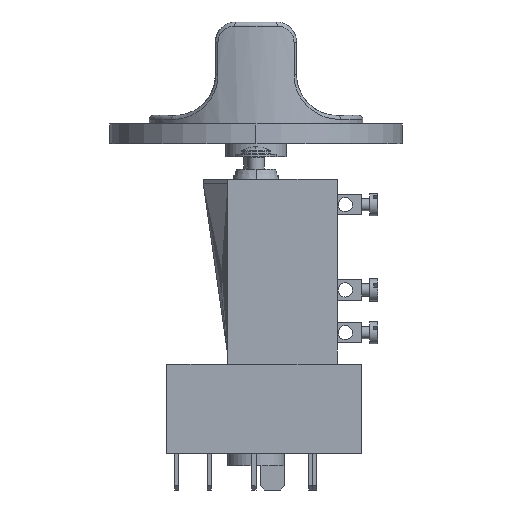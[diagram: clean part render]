
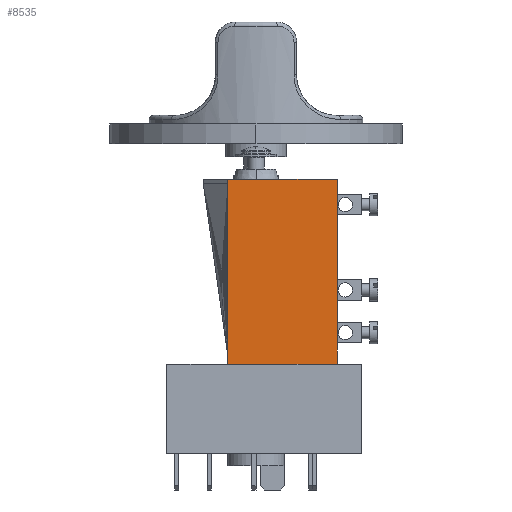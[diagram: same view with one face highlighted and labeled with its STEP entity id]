
A CAD part, front view. The second image highlights one B-rep face of the part: STEP entity #8535.
In plain terms, the highlighted planar face has unit normal (0, -1, 0).
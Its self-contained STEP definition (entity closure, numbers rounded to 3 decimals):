
#973 = CARTESIAN_POINT ( 'NONE',  ( 20., -23., -49.5 ) ) ;
#1630 = EDGE_CURVE ( 'NONE', #6803, #10445, #3382, .T. ) ;
#1868 = CARTESIAN_POINT ( 'NONE',  ( -7., -23., -5.5 ) ) ;
#2716 = AXIS2_PLACEMENT_3D ( 'NONE', #9644, #5912, #7879 ) ;
#2952 = VECTOR ( 'NONE', #4223, 1000. ) ;
#3240 = DIRECTION ( 'NONE',  ( 1., 0., 0. ) ) ;
#3382 = LINE ( 'NONE', #3491, #4544 ) ;
#3491 = CARTESIAN_POINT ( 'NONE',  ( 20., -23., -51. ) ) ;
#3593 = ORIENTED_EDGE ( 'NONE', *, *, #5294, .F. ) ;
#3661 = EDGE_LOOP ( 'NONE', ( #3593, #6645, #4479, #6017 ) ) ;
#4223 = DIRECTION ( 'NONE',  ( 1., 0., 0. ) ) ;
#4469 = VERTEX_POINT ( 'NONE', #8539 ) ;
#4479 = ORIENTED_EDGE ( 'NONE', *, *, #9175, .F. ) ;
#4544 = VECTOR ( 'NONE', #3240, 1000. ) ;
#5294 = EDGE_CURVE ( 'NONE', #6803, #11212, #6137, .T. ) ;
#5912 = DIRECTION ( 'NONE',  ( 0., -1., 0. ) ) ;
#6017 = ORIENTED_EDGE ( 'NONE', *, *, #6709, .F. ) ;
#6137 = LINE ( 'NONE', #11763, #11592 ) ;
#6191 = DIRECTION ( 'NONE',  ( 0., 0., 1. ) ) ;
#6645 = ORIENTED_EDGE ( 'NONE', *, *, #1630, .T. ) ;
#6709 = EDGE_CURVE ( 'NONE', #11212, #4469, #6942, .T. ) ;
#6803 = VERTEX_POINT ( 'NONE', #8144 ) ;
#6910 = CARTESIAN_POINT ( 'NONE',  ( 6.5, -23., -5.5 ) ) ;
#6942 = LINE ( 'NONE', #6910, #2952 ) ;
#7758 = PLANE ( 'NONE',  #2716 ) ;
#7879 = DIRECTION ( 'NONE',  ( 0., 0., 1. ) ) ;
#8144 = CARTESIAN_POINT ( 'NONE',  ( -7., -23., -51. ) ) ;
#8152 = DIRECTION ( 'NONE',  ( 0., 0., -1. ) ) ;
#8325 = LINE ( 'NONE', #973, #10318 ) ;
#8535 = ADVANCED_FACE ( 'NONE', ( #9053 ), #7758, .T. ) ;
#8539 = CARTESIAN_POINT ( 'NONE',  ( 20., -23., -5.5 ) ) ;
#9053 = FACE_OUTER_BOUND ( 'NONE', #3661, .T. ) ;
#9175 = EDGE_CURVE ( 'NONE', #4469, #10445, #8325, .T. ) ;
#9644 = CARTESIAN_POINT ( 'NONE',  ( 20., -23., -49.5 ) ) ;
#10318 = VECTOR ( 'NONE', #8152, 1000. ) ;
#10445 = VERTEX_POINT ( 'NONE', #10606 ) ;
#10606 = CARTESIAN_POINT ( 'NONE',  ( 20., -23., -51. ) ) ;
#11212 = VERTEX_POINT ( 'NONE', #1868 ) ;
#11592 = VECTOR ( 'NONE', #6191, 1000. ) ;
#11763 = CARTESIAN_POINT ( 'NONE',  ( -7., -23., -49.5 ) ) ;
